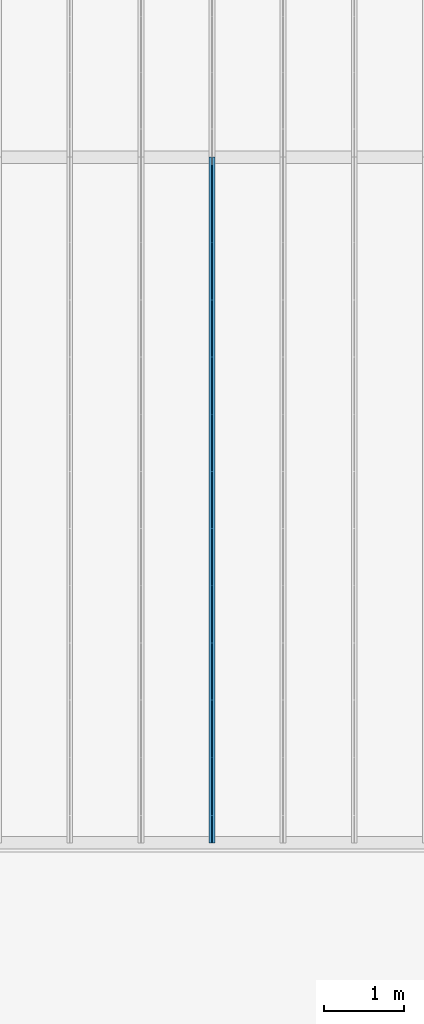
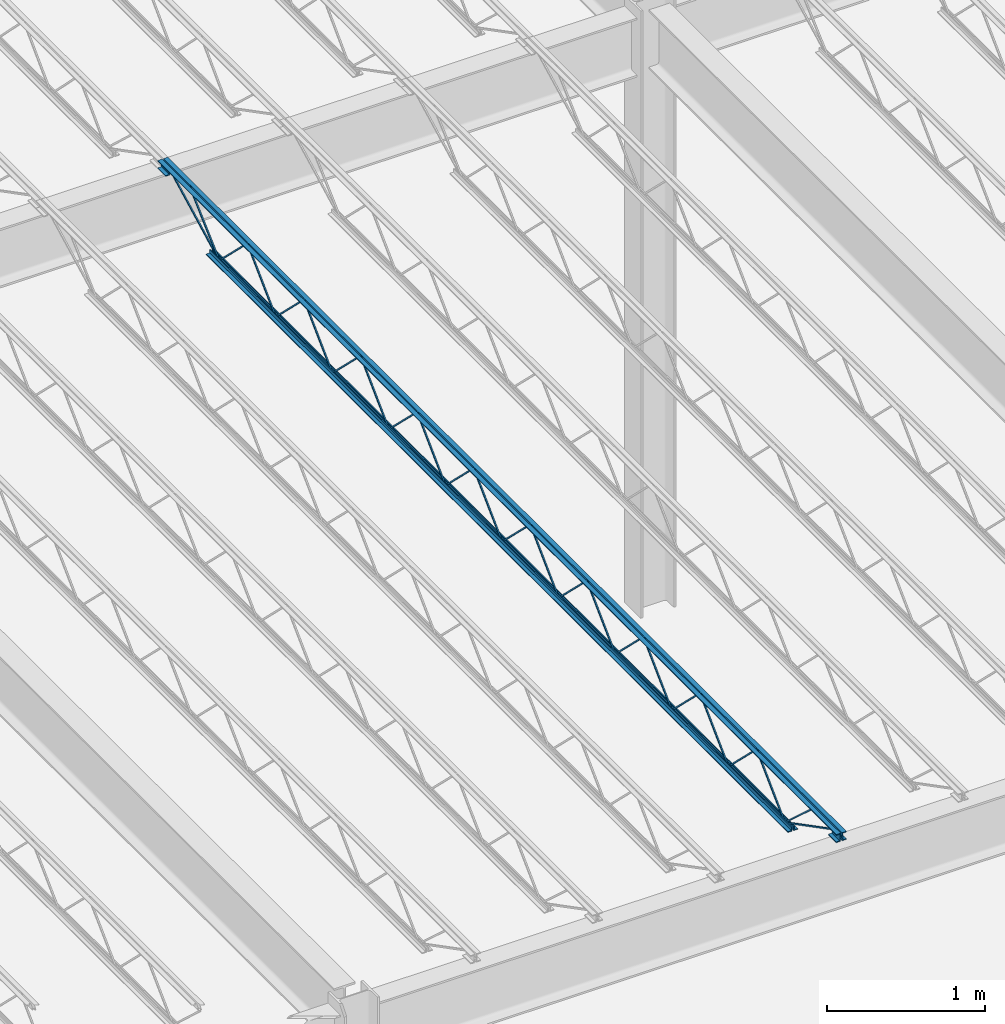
# One storey, part 29 of 119: 1 beam.
"""IFC2X3 building model written with IfcOpenShell, lengths in metres."""

from ifc_helpers import new_model, entity, si_unit, converted_unit, frame, origin, place, context, project, spatial, face_set, surface_model, element, save


model = new_model("IFC2X3")

# Units and contexts
model_context = context("Model", 3, precision=1e-09, world=origin())
plan_context = context("Plan", 3, precision=1e-09, world=origin())
ifc_project = project(units=[si_unit("LENGTHUNIT", "METRE"), si_unit("AREAUNIT", "SQUARE_METRE"), si_unit("VOLUMEUNIT", "CUBIC_METRE"), converted_unit("PLANEANGLEUNIT", "DEGREE", entity("IfcRatioMeasure", 0.01745329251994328), si_unit("PLANEANGLEUNIT", "RADIAN"), dimensions=[0, 0, 0, 0, 0, 0, 0]), si_unit("TIMEUNIT", "SECOND")], contexts=[model_context, plan_context])

# Site, building, storey
site_placement = place(None, origin())
site = spatial("IfcSite", under=ifc_project, at=site_placement, Name="Default", CompositionType="ELEMENT")
building_placement = place(site_placement, origin())
building = spatial("IfcBuilding", under=site, at=building_placement, CompositionType="ELEMENT")
storey_placement = place(building_placement, frame((0.0, 0.0, 4.570000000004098)))
storey = spatial("IfcBuildingStorey", under=building, at=storey_placement, Name="Second Floor", CompositionType="ELEMENT", Elevation=4.570000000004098)

# Beam
beam_placement = place(storey_placement, frame((-37.14175000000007, 10.04000000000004, 4.323999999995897)))
element("IfcBeam", 1, at=beam_placement, inside=storey, Name="M_K-Series Bar Joist-Rod Web:14K1:14K1", ObjectType="M_K-Series Bar Joist-Rod Web:14K1", context=model_context, shape_type="SurfaceModel", body=[
    surface_model("IfcFaceBasedSurfaceModel", [(0.04150000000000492, 6.428799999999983, 0.01110000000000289), (0.03200000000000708, 6.428799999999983, 0.01110000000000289), (0.03200000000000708, 6.428799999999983, 0.001600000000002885), (0.04150000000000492, 6.428799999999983, 0.001600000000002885), (0.03200000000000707, 6.430038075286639, 0.01110000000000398), (0.04150000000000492, 6.430038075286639, 0.01110000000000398), (0.03200000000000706, 6.433911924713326, 0.001600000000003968), (0.03200000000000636, 6.784861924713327, 0.3449000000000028), (0.03200000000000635, 6.787338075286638, 0.3449000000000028), (0.03200000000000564, 7.138288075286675, 0.001600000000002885), (0.03200000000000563, 7.143399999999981, 0.001600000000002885), (0.03200000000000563, 7.143399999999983, 0.01110000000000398), (0.03200000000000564, 7.142161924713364, 0.01110000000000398), (0.03200000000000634, 6.791211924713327, 0.3544000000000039), (0.03200000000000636, 6.780988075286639, 0.3544000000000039), (0.04150000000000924, 6.433911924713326, 0.001600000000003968), (0.04150000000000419, 6.784861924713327, 0.3449000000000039), (0.04150000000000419, 6.78733807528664, 0.3449000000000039), (0.04150000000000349, 7.138288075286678, 0.001600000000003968), (0.04150000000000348, 7.143399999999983, 0.001600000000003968), (0.04150000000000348, 7.143399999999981, 0.01110000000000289), (0.04150000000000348, 7.142161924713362, 0.01110000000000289), (0.04150000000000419, 6.791211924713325, 0.3544000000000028), (0.0415000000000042, 6.780988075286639, 0.3544000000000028), (0.04150000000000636, 5.714199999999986, 0.01110000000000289), (0.03200000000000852, 5.714199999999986, 0.01110000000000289), (0.03200000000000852, 5.714199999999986, 0.001600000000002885), (0.04150000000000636, 5.714199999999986, 0.001600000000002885), (0.03200000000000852, 5.715438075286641, 0.01110000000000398), (0.04150000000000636, 5.715438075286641, 0.01110000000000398), (0.03200000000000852, 5.719311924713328, 0.001600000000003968), (0.0320000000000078, 6.070261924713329, 0.3449000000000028), (0.0320000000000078, 6.072738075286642, 0.3449000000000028), (0.03200000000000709, 6.423688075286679, 0.001600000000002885), (0.03200000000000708, 6.428799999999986, 0.001600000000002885), (0.03200000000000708, 6.428799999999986, 0.01110000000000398), (0.03200000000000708, 6.427561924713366, 0.01110000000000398), (0.03200000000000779, 6.076611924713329, 0.3544000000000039), (0.03200000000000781, 6.066388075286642, 0.3544000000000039), (0.04150000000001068, 5.719311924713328, 0.001600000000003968), (0.04150000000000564, 6.070261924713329, 0.3449000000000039), (0.04150000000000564, 6.072738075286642, 0.3449000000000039), (0.04150000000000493, 6.423688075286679, 0.001600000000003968), (0.04150000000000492, 6.428799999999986, 0.001600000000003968), (0.04150000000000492, 6.428799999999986, 0.01110000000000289), (0.04150000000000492, 6.427561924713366, 0.01110000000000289), (0.04150000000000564, 6.076611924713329, 0.3544000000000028), (0.04150000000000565, 6.066388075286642, 0.3544000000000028), (0.04150000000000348, 4.999599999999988, 0.01110000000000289), (0.03200000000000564, 4.999599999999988, 0.01110000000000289), (0.03200000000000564, 4.999599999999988, 0.001600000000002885), (0.04150000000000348, 4.999599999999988, 0.001600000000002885), (0.03200000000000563, 5.000838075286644, 0.01110000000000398), (0.04150000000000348, 5.000838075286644, 0.01110000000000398), (0.03200000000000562, 5.00471192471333, 0.001600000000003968), (0.03200000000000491, 5.35566192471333, 0.3449000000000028), (0.03200000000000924, 5.358138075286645, 0.3449000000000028), (0.03200000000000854, 5.709088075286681, 0.001600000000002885), (0.03200000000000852, 5.714199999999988, 0.001600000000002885), (0.03200000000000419, 5.714199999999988, 0.01110000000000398), (0.03200000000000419, 5.712961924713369, 0.01110000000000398), (0.03200000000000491, 5.362011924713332, 0.3544000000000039), (0.03200000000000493, 5.351788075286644, 0.3544000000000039), (0.0415000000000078, 5.00471192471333, 0.001600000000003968), (0.04150000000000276, 5.35566192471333, 0.3449000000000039), (0.04150000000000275, 5.358138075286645, 0.3449000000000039), (0.04150000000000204, 5.709088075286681, 0.001600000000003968), (0.04150000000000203, 5.714199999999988, 0.001600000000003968), (0.04150000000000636, 5.714199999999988, 0.01110000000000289), (0.04150000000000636, 5.712961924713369, 0.01110000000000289), (0.04150000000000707, 5.362011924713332, 0.3544000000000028), (0.04150000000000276, 5.351788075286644, 0.3544000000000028), (0.04150000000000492, 4.28499999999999, 0.01110000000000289), (0.03200000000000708, 4.28499999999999, 0.01110000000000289), (0.03200000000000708, 4.28499999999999, 0.001600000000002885), (0.04150000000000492, 4.28499999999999, 0.001600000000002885), (0.03200000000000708, 4.286238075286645, 0.01110000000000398), (0.04150000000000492, 4.286238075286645, 0.01110000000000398), (0.03200000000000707, 4.290111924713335, 0.001600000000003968), (0.03200000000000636, 4.641061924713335, 0.3449000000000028), (0.03200000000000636, 4.643538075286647, 0.3449000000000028), (0.03200000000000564, 4.994488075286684, 0.001600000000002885), (0.03200000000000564, 4.999599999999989, 0.001600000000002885), (0.03200000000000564, 4.999599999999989, 0.01110000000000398), (0.03200000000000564, 4.998361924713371, 0.01110000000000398), (0.03200000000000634, 4.647411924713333, 0.3544000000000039), (0.03200000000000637, 4.637188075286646, 0.3544000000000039), (0.04150000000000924, 4.290111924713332, 0.001600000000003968), (0.0415000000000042, 4.641061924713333, 0.3449000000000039), (0.04150000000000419, 4.643538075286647, 0.3449000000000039), (0.04150000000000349, 4.994488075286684, 0.001600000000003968), (0.04150000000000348, 4.999599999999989, 0.001600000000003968), (0.04150000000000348, 4.999599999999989, 0.01110000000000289), (0.04150000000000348, 4.998361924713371, 0.01110000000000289), (0.04150000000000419, 4.647411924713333, 0.3544000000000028), (0.04150000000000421, 4.637188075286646, 0.3544000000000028), (0.04150000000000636, 3.570399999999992, 0.01110000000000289), (0.03200000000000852, 3.570399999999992, 0.01110000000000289), (0.03200000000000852, 3.570399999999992, 0.001600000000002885), (0.04150000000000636, 3.570399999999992, 0.001600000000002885), (0.03200000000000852, 3.571638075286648, 0.01110000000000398), (0.04150000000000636, 3.571638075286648, 0.01110000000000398), (0.03200000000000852, 3.575511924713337, 0.001600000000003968), (0.03200000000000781, 3.926461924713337, 0.3449000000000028), (0.0320000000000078, 3.928938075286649, 0.3449000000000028), (0.03200000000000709, 4.279888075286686, 0.001600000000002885), (0.03200000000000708, 4.284999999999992, 0.001600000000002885), (0.03200000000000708, 4.284999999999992, 0.01110000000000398), (0.03200000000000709, 4.283761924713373, 0.01110000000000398), (0.03200000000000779, 3.932811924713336, 0.3544000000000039), (0.03200000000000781, 3.922588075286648, 0.3544000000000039), (0.04150000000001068, 3.575511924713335, 0.001600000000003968), (0.04150000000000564, 3.926461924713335, 0.3449000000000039), (0.04150000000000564, 3.928938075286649, 0.3449000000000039), (0.04150000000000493, 4.279888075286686, 0.001600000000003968), (0.04150000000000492, 4.284999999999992, 0.001600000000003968), (0.04150000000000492, 4.284999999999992, 0.01110000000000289), (0.04150000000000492, 4.283761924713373, 0.01110000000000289), (0.04150000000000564, 3.932811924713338, 0.3544000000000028), (0.04150000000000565, 3.92258807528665, 0.3544000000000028), (0.04150000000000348, 2.855799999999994, 0.01110000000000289), (0.03200000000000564, 2.855799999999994, 0.01110000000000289), (0.03200000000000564, 2.855799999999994, 0.001600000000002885), (0.04150000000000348, 2.855799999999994, 0.001600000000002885), (0.03200000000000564, 2.85703807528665, 0.01110000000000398), (0.04150000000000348, 2.85703807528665, 0.01110000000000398), (0.03200000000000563, 2.860911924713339, 0.001600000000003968), (0.03200000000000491, 3.21186192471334, 0.3449000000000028), (0.03200000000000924, 3.214338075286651, 0.3449000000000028), (0.03200000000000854, 3.565288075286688, 0.001600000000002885), (0.03200000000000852, 3.570399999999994, 0.001600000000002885), (0.03200000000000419, 3.570399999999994, 0.01110000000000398), (0.0320000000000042, 3.569161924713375, 0.01110000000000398), (0.03200000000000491, 3.218211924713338, 0.3544000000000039), (0.03200000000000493, 3.20798807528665, 0.3544000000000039), (0.0415000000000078, 2.860911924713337, 0.001600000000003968), (0.04150000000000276, 3.211861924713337, 0.3449000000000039), (0.04150000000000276, 3.214338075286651, 0.3449000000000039), (0.04150000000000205, 3.565288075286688, 0.001600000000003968), (0.04150000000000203, 3.570399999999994, 0.001600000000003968), (0.04150000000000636, 3.570399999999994, 0.01110000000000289), (0.04150000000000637, 3.569161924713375, 0.01110000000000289), (0.04150000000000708, 3.21821192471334, 0.3544000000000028), (0.04150000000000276, 3.207988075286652, 0.3544000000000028), (0.04150000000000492, 2.141199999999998, 0.01110000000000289), (0.03200000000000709, 2.141199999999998, 0.01110000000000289), (0.03200000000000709, 2.141199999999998, 0.001600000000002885), (0.04150000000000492, 2.141199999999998, 0.001600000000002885), (0.03200000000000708, 2.142438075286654, 0.01110000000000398), (0.04150000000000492, 2.142438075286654, 0.01110000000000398), (0.03200000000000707, 2.146311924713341, 0.001600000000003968), (0.03200000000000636, 2.497261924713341, 0.3449000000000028), (0.03200000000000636, 2.499738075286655, 0.3449000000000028), (0.03200000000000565, 2.850688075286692, 0.001600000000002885), (0.03200000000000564, 2.855799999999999, 0.001600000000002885), (0.03200000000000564, 2.855799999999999, 0.01110000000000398), (0.03200000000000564, 2.85456192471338, 0.01110000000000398), (0.03200000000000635, 2.503611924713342, 0.3544000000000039), (0.03200000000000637, 2.493388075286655, 0.3544000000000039), (0.04150000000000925, 2.146311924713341, 0.001600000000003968), (0.0415000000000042, 2.497261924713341, 0.3449000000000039), (0.04150000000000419, 2.499738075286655, 0.3449000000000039), (0.04150000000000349, 2.850688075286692, 0.001600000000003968), (0.04150000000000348, 2.855799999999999, 0.001600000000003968), (0.04150000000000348, 2.855799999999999, 0.01110000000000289), (0.04150000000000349, 2.85456192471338, 0.01110000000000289), (0.04150000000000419, 2.503611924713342, 0.3544000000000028), (0.04150000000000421, 2.493388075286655, 0.3544000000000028), (0.04150000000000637, 1.426600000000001, 0.01110000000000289), (0.03200000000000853, 1.426600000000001, 0.01110000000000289), (0.03200000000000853, 1.426600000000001, 0.001600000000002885), (0.04150000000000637, 1.426600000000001, 0.001600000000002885), (0.03200000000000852, 1.427838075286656, 0.01110000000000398), (0.04150000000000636, 1.427838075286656, 0.01110000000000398), (0.03200000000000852, 1.431711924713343, 0.001600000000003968), (0.03200000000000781, 1.782661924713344, 0.3449000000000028), (0.0320000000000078, 1.785138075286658, 0.3449000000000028), (0.03200000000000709, 2.136088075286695, 0.001600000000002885), (0.03200000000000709, 2.1412, 0.001600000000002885), (0.03200000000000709, 2.1412, 0.01110000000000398), (0.03200000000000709, 2.139961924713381, 0.01110000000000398), (0.03200000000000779, 1.789011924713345, 0.3544000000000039), (0.03200000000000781, 1.778788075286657, 0.3544000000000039), (0.0415000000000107, 1.431711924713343, 0.001600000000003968), (0.04150000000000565, 1.782661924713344, 0.3449000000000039), (0.04150000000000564, 1.785138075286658, 0.3449000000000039), (0.04150000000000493, 2.136088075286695, 0.001600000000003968), (0.04150000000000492, 2.1412, 0.001600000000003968), (0.04150000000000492, 2.1412, 0.01110000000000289), (0.04150000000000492, 2.139961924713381, 0.01110000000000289), (0.04150000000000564, 1.789011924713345, 0.3544000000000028), (0.04150000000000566, 1.778788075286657, 0.3544000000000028), (0.04150000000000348, 7.143399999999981, 0.01109999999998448), (0.03200000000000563, 7.143399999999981, 0.01109999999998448), (0.03200000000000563, 7.143399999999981, 0.001599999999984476), (0.04150000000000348, 7.143399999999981, 0.001599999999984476), (0.03200000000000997, 7.144638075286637, 0.01109999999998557), (0.0415000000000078, 7.144638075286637, 0.01109999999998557), (0.03200000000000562, 7.148511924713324, 0.001599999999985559), (0.03200000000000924, 7.499461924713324, 0.3448999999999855), (0.03200000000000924, 7.501938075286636, 0.3448999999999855), (0.03200000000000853, 7.852888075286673, 0.001599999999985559), (0.03200000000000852, 7.857999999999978, 0.001599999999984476), (0.03200000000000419, 7.857999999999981, 0.01109999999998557), (0.03200000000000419, 7.856761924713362, 0.01109999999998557), (0.0320000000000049, 7.505811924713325, 0.3543999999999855), (0.03200000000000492, 7.495588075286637, 0.3543999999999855), (0.04150000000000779, 7.148511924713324, 0.001599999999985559), (0.04150000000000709, 7.499461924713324, 0.3448999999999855), (0.04150000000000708, 7.501938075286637, 0.3448999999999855), (0.04150000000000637, 7.852888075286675, 0.001599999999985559), (0.04150000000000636, 7.857999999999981, 0.001599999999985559), (0.04150000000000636, 7.857999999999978, 0.01109999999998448), (0.0415000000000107, 7.85676192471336, 0.01109999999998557), (0.0415000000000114, 7.505811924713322, 0.3543999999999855), (0.04150000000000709, 7.495588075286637, 0.3543999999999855), (0.04150000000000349, 0.7120000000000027, 0.01110000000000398), (0.03200000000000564, 0.7120000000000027, 0.01110000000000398), (0.03200000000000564, 0.7120000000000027, 0.001600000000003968), (0.04150000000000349, 0.7120000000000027, 0.001600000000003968), (0.03200000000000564, 0.7132380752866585, 0.01110000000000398), (0.04150000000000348, 0.7132380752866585, 0.01110000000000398), (0.03200000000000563, 0.7171119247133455, 0.001600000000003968), (0.03200000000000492, 1.068061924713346, 0.3449000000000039), (0.03200000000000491, 1.07053807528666, 0.3449000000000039), (0.03200000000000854, 1.421488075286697, 0.001600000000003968), (0.03200000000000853, 1.426600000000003, 0.001600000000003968), (0.0320000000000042, 1.426600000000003, 0.01110000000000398), (0.0320000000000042, 1.425361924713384, 0.01110000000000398), (0.03200000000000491, 1.074411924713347, 0.3544000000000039), (0.03200000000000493, 1.064188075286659, 0.3544000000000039), (0.0415000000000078, 0.7171119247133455, 0.001600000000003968), (0.04150000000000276, 1.068061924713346, 0.3449000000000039), (0.04150000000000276, 1.07053807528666, 0.3449000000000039), (0.04150000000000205, 1.421488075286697, 0.001600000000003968), (0.04150000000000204, 1.426600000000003, 0.001600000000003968), (0.04150000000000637, 1.426600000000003, 0.01110000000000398), (0.04150000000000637, 1.425361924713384, 0.01110000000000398), (0.04150000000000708, 1.074411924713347, 0.3544000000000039), (0.04150000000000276, 1.064188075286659, 0.3544000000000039), (0.03200000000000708, 8.569999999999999, 0.3559999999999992), (0.0, 8.569999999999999, 0.3559999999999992), (0.0, 8.569999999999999, 0.3494999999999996), (0.02550000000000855, 8.569999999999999, 0.3494999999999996), (0.02550000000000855, 8.569999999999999, 0.3239999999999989), (0.03200000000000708, 8.569999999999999, 0.3239999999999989), (0.04150000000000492, 8.569999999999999, 0.3559999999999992), (0.04150000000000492, 8.569999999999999, 0.3239999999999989), (0.04800000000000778, 8.569999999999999, 0.3239999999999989), (0.04800000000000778, 8.569999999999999, 0.3494999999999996), (0.07350000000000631, 8.569999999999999, 0.3494999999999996), (0.07350000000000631, 8.569999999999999, 0.3559999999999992), (0.03200000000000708, 0.0, 0.3559999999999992), (0.0, 0.0, 0.3559999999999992), (0.0, 0.0, 0.3494999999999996), (0.02550000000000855, 0.0, 0.3494999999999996), (0.02550000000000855, 0.0, 0.3239999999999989), (0.03200000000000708, 0.0, 0.3239999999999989), (0.04150000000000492, 0.0, 0.3559999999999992), (0.04150000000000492, 0.0, 0.3239999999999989), (0.04800000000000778, 0.0, 0.3239999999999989), (0.04800000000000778, 0.0, 0.3494999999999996), (0.07350000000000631, 0.0, 0.3494999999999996), (0.07350000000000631, 0.0, 0.3559999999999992), (0.04150000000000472, 0.09999999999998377, 0.2924999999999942), (0.0735000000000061, 0.09999999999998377, 0.2924999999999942), (0.0735000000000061, 0.09999999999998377, 0.2989999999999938), (0.04800000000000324, 0.09999999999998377, 0.2989999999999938), (0.04800000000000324, 0.09999999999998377, 0.3239999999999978), (0.04150000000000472, 0.09999999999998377, 0.3239999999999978), (0.0, 0.09999999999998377, 0.2924999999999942), (0.03200000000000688, 0.09999999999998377, 0.2924999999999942), (0.03200000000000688, 0.09999999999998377, 0.3239999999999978), (0.02550000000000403, 0.09999999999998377, 0.3239999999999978), (0.02550000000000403, 0.09999999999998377, 0.2989999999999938), (0.0, 0.09999999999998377, 0.2989999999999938), (0.04150000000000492, 0.0, 0.2924999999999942), (0.07350000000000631, 0.0, 0.2924999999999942), (0.07350000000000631, 0.0, 0.2989999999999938), (0.04800000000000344, 0.0, 0.2989999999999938), (0.04800000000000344, 0.0, 0.3239999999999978), (0.04150000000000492, 0.0, 0.3239999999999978), (0.0, 0.0, 0.2924999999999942), (0.03200000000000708, 0.0, 0.2924999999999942), (0.03200000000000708, 0.0, 0.3239999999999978), (0.02550000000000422, 0.0, 0.3239999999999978), (0.02550000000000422, 0.0, 0.2989999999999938), (0.0, 0.0, 0.2989999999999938), (0.03200000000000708, 8.569999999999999, 0.2924999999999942), (0.03200000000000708, 8.569999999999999, 0.3239999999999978), (0.02550000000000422, 8.569999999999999, 0.3239999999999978), (0.02550000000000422, 8.569999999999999, 0.2989999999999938), (0.0, 8.569999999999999, 0.2989999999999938), (0.0, 8.569999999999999, 0.2924999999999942), (0.04150000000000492, 8.569999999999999, 0.2924999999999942), (0.07350000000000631, 8.569999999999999, 0.2924999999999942), (0.07350000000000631, 8.569999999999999, 0.2989999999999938), (0.04800000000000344, 8.569999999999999, 0.2989999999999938), (0.04800000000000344, 8.569999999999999, 0.3239999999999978), (0.04150000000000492, 8.569999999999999, 0.3239999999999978), (0.03200000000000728, 8.469999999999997, 0.2924999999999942), (0.03200000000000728, 8.469999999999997, 0.3239999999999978), (0.02550000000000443, 8.469999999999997, 0.3239999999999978), (0.02550000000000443, 8.469999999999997, 0.2989999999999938), (0.0, 8.469999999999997, 0.2989999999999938), (0.0, 8.469999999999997, 0.2924999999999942), (0.04150000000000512, 8.469999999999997, 0.2924999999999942), (0.07350000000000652, 8.469999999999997, 0.2924999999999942), (0.07350000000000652, 8.469999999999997, 0.2989999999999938), (0.04800000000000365, 8.469999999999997, 0.2989999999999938), (0.04800000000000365, 8.469999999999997, 0.3239999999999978), (0.04150000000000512, 8.469999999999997, 0.3239999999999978), (0.03200000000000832, 7.958000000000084, 0.0), (0.03200000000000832, 7.958000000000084, 0.03199999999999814), (0.0255000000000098, 7.958000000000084, 0.03199999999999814), (0.0255000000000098, 7.958000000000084, 0.006499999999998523), (0.0, 7.958000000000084, 0.006499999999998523), (0.0, 7.958000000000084, 0.0), (0.04150000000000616, 7.958000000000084, 0.0), (0.07350000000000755, 7.958000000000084, 0.0), (0.07350000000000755, 7.958000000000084, 0.006499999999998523), (0.04800000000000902, 7.958000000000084, 0.006499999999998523), (0.04800000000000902, 7.958000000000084, 0.03199999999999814), (0.04150000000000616, 7.958000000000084, 0.03199999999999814), (0.03200000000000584, 0.6120000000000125, 0.0), (0.03200000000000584, 0.6120000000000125, 0.03199999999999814), (0.02550000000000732, 0.6120000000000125, 0.03199999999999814), (0.02550000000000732, 0.6120000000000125, 0.006499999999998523), (0.0, 0.6120000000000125, 0.006499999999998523), (0.0, 0.6120000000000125, 0.0), (0.04150000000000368, 0.6120000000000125, 0.0), (0.07350000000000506, 0.6120000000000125, 0.0), (0.07350000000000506, 0.6120000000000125, 0.006499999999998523), (0.04800000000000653, 0.6120000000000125, 0.006499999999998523), (0.04800000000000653, 0.6120000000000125, 0.03199999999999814), (0.04150000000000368, 0.6120000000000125, 0.03199999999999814), (0.04150000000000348, 0.7141882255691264, 0.01056594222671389), (0.03200000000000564, 0.7141882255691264, 0.01056594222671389), (0.03200000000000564, 0.7098117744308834, 0.002134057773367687), (0.04150000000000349, 0.7098117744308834, 0.00213405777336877), (0.04150000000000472, 0.101159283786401, 0.3287499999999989), (0.04150000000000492, 0.0, 0.3287499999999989), (0.04150000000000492, 0.0, 0.3192499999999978), (0.04150000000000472, 0.09884071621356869, 0.3192499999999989), (0.03200000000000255, 0.09884071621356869, 0.3192499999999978), (0.03200000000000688, 0.101159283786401, 0.3287499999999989), (0.03200000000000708, 0.0, 0.3287499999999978), (0.03200000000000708, 0.0, 0.3192499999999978), (0.04150000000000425, 0.3347428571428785, 0.3417000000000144), (0.0320000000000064, 0.3347428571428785, 0.3417000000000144), (0.0320000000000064, 0.3347428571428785, 0.3322000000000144), (0.04150000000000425, 0.3347428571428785, 0.3322000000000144), (0.03200000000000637, 0.3492758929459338, 0.3417000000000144), (0.04150000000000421, 0.3492758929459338, 0.3417000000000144), (0.03200000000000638, 0.3456098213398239, 0.3322000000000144), (0.03200000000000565, 0.7088091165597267, 0.002831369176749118), (0.03200000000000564, 0.7151908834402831, 0.009868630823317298), (0.04150000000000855, 0.3456098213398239, 0.3322000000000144), (0.04150000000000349, 0.7088091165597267, 0.002831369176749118), (0.04150000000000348, 0.7151908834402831, 0.009868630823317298), (0.04150000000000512, 8.472188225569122, 0.3197840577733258), (0.04150000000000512, 8.467811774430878, 0.328215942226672), (0.03200000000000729, 8.467811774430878, 0.328215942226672), (0.03200000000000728, 8.472188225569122, 0.3197840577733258), (0.04150000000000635, 7.860188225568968, 0.002134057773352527), (0.04150000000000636, 7.855811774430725, 0.01056594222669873), (0.03200000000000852, 7.855811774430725, 0.01056594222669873), (0.03200000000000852, 7.860188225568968, 0.002134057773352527), (0.0415000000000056, 8.233036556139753, 0.3461600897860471), (0.04150000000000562, 8.226592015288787, 0.3531399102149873), (0.03200000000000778, 8.226592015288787, 0.3531399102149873), (0.03200000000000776, 8.233036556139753, 0.3461600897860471), (0.04150000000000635, 7.86122227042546, 0.00286008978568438), (0.04150000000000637, 7.854777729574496, 0.009839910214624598), (0.03200000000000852, 7.854777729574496, 0.009839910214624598), (0.03200000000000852, 7.86122227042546, 0.00286008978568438)], [face_set([[[0, 1, 2, 3]], [[1, 4, 5, 0]], [[2, 6, 7, 8, 9, 10, 11, 12, 13, 14, 4, 1]], [[3, 2, 6, 15]], [[0, 3, 15, 16, 17, 18, 19, 20, 21, 22, 23, 5]], [[4, 5, 23, 14]], [[15, 16, 7, 6]], [[14, 13, 22, 23]], [[16, 7, 8, 17]], [[13, 12, 21, 22]], [[17, 8, 9, 18]], [[20, 11, 10, 19]], [[12, 11, 20, 21]], [[18, 9, 10, 19]]]), face_set([[[24, 25, 26, 27]], [[25, 28, 29, 24]], [[26, 30, 31, 32, 33, 34, 35, 36, 37, 38, 28, 25]], [[27, 26, 30, 39]], [[24, 27, 39, 40, 41, 42, 43, 44, 45, 46, 47, 29]], [[28, 29, 47, 38]], [[39, 40, 31, 30]], [[38, 37, 46, 47]], [[40, 31, 32, 41]], [[37, 36, 45, 46]], [[41, 32, 33, 42]], [[44, 35, 34, 43]], [[36, 35, 44, 45]], [[42, 33, 34, 43]]]), face_set([[[48, 49, 50, 51]], [[49, 52, 53, 48]], [[50, 54, 55, 56, 57, 58, 59, 60, 61, 62, 52, 49]], [[51, 50, 54, 63]], [[48, 51, 63, 64, 65, 66, 67, 68, 69, 70, 71, 53]], [[52, 53, 71, 62]], [[63, 64, 55, 54]], [[62, 61, 70, 71]], [[64, 55, 56, 65]], [[61, 60, 69, 70]], [[65, 56, 57, 66]], [[68, 59, 58, 67]], [[60, 59, 68, 69]], [[66, 57, 58, 67]]]), face_set([[[72, 73, 74, 75]], [[73, 76, 77, 72]], [[74, 78, 79, 80, 81, 82, 83, 84, 85, 86, 76, 73]], [[75, 74, 78, 87]], [[72, 75, 87, 88, 89, 90, 91, 92, 93, 94, 95, 77]], [[76, 77, 95, 86]], [[87, 88, 79, 78]], [[86, 85, 94, 95]], [[88, 79, 80, 89]], [[85, 84, 93, 94]], [[89, 80, 81, 90]], [[92, 83, 82, 91]], [[84, 83, 92, 93]], [[90, 81, 82, 91]]]), face_set([[[96, 97, 98, 99]], [[97, 100, 101, 96]], [[98, 102, 103, 104, 105, 106, 107, 108, 109, 110, 100, 97]], [[99, 98, 102, 111]], [[96, 99, 111, 112, 113, 114, 115, 116, 117, 118, 119, 101]], [[100, 101, 119, 110]], [[111, 112, 103, 102]], [[110, 109, 118, 119]], [[112, 103, 104, 113]], [[109, 108, 117, 118]], [[113, 104, 105, 114]], [[116, 107, 106, 115]], [[108, 107, 116, 117]], [[114, 105, 106, 115]]]), face_set([[[120, 121, 122, 123]], [[121, 124, 125, 120]], [[122, 126, 127, 128, 129, 130, 131, 132, 133, 134, 124, 121]], [[123, 122, 126, 135]], [[120, 123, 135, 136, 137, 138, 139, 140, 141, 142, 143, 125]], [[124, 125, 143, 134]], [[135, 136, 127, 126]], [[134, 133, 142, 143]], [[136, 127, 128, 137]], [[133, 132, 141, 142]], [[137, 128, 129, 138]], [[140, 131, 130, 139]], [[132, 131, 140, 141]], [[138, 129, 130, 139]]]), face_set([[[144, 145, 146, 147]], [[145, 148, 149, 144]], [[146, 150, 151, 152, 153, 154, 155, 156, 157, 158, 148, 145]], [[147, 146, 150, 159]], [[144, 147, 159, 160, 161, 162, 163, 164, 165, 166, 167, 149]], [[148, 149, 167, 158]], [[159, 160, 151, 150]], [[158, 157, 166, 167]], [[160, 151, 152, 161]], [[157, 156, 165, 166]], [[161, 152, 153, 162]], [[164, 155, 154, 163]], [[156, 155, 164, 165]], [[162, 153, 154, 163]]]), face_set([[[168, 169, 170, 171]], [[169, 172, 173, 168]], [[170, 174, 175, 176, 177, 178, 179, 180, 181, 182, 172, 169]], [[171, 170, 174, 183]], [[168, 171, 183, 184, 185, 186, 187, 188, 189, 190, 191, 173]], [[172, 173, 191, 182]], [[183, 184, 175, 174]], [[182, 181, 190, 191]], [[184, 175, 176, 185]], [[181, 180, 189, 190]], [[185, 176, 177, 186]], [[188, 179, 178, 187]], [[180, 179, 188, 189]], [[186, 177, 178, 187]]]), face_set([[[192, 193, 194, 195]], [[193, 196, 197, 192]], [[194, 198, 199, 200, 201, 202, 203, 204, 205, 206, 196, 193]], [[195, 194, 198, 207]], [[192, 195, 207, 208, 209, 210, 211, 212, 213, 214, 215, 197]], [[196, 197, 215, 206]], [[207, 208, 199, 198]], [[206, 205, 214, 215]], [[208, 199, 200, 209]], [[205, 204, 213, 214]], [[209, 200, 201, 210]], [[212, 203, 202, 211]], [[204, 203, 212, 213]], [[210, 201, 202, 211]]]), face_set([[[216, 217, 218, 219]], [[217, 220, 221, 216]], [[218, 222, 223, 224, 225, 226, 227, 228, 229, 230, 220, 217]], [[219, 218, 222, 231]], [[216, 219, 231, 232, 233, 234, 235, 236, 237, 238, 239, 221]], [[220, 221, 239, 230]], [[231, 232, 223, 222]], [[230, 229, 238, 239]], [[232, 223, 224, 233]], [[229, 228, 237, 238]], [[233, 224, 225, 234]], [[236, 227, 226, 235]], [[228, 227, 236, 237]], [[234, 225, 226, 235]]]), face_set([[[240, 241, 242, 243, 244, 245]], [[246, 247, 248, 249, 250, 251]], [[252, 253, 254, 255, 256, 257]], [[258, 259, 260, 261, 262, 263]], [[245, 240, 252, 257]], [[244, 245, 257, 256]], [[243, 255, 256, 244]], [[242, 243, 255, 254]], [[241, 253, 254, 242]], [[240, 252, 253, 241]], [[251, 263, 258, 246]], [[250, 251, 263, 262]], [[249, 250, 262, 261]], [[248, 249, 261, 260]], [[247, 248, 260, 259]], [[246, 258, 259, 247]]]), face_set([[[264, 265, 266, 267, 268, 269]], [[270, 271, 272, 273, 274, 275]], [[276, 277, 278, 279, 280, 281]], [[282, 283, 284, 285, 286, 287]], [[269, 281, 276, 264]], [[268, 280, 281, 269]], [[267, 268, 280, 279]], [[266, 278, 279, 267]], [[265, 266, 278, 277]], [[264, 265, 277, 276]], [[275, 287, 282, 270]], [[274, 286, 287, 275]], [[273, 285, 286, 274]], [[272, 284, 285, 273]], [[271, 272, 284, 283]], [[270, 271, 283, 282]]]), face_set([[[288, 289, 290, 291, 292, 293]], [[294, 295, 296, 297, 298, 299]], [[300, 301, 302, 303, 304, 305]], [[306, 307, 308, 309, 310, 311]], [[293, 288, 300, 305]], [[292, 304, 305, 293]], [[291, 303, 304, 292]], [[290, 302, 303, 291]], [[289, 301, 302, 290]], [[288, 289, 301, 300]], [[299, 311, 306, 294]], [[298, 310, 311, 299]], [[297, 298, 310, 309]], [[296, 308, 309, 297]], [[295, 296, 308, 307]], [[294, 295, 307, 306]]]), face_set([[[312, 313, 314, 315, 316, 317]], [[318, 319, 320, 321, 322, 323]], [[324, 325, 326, 327, 328, 329]], [[330, 331, 332, 333, 334, 335]], [[317, 312, 324, 329]], [[316, 328, 329, 317]], [[315, 327, 328, 316]], [[314, 326, 327, 315]], [[313, 325, 326, 314]], [[312, 313, 325, 324]], [[323, 335, 330, 318]], [[322, 334, 335, 323]], [[321, 322, 334, 333]], [[320, 332, 333, 321]], [[319, 320, 332, 331]], [[318, 319, 331, 330]]]), face_set([[[336, 337, 338, 339]], [[339, 336, 340, 341, 342, 343]], [[338, 339, 343, 344]], [[337, 345, 346, 347, 344, 338]], [[336, 340, 345, 337]], [[341, 346, 347, 342]], [[344, 343, 342, 347]], [[340, 341, 346, 345]]]), face_set([[[348, 349, 350, 351]], [[349, 352, 353, 348]], [[350, 354, 355, 356, 352, 349]], [[351, 350, 354, 357]], [[348, 351, 357, 358, 359, 353]], [[359, 356, 355, 358]], [[352, 356, 359, 353]], [[357, 354, 355, 358]]]), face_set([[[360, 361, 362, 363]], [[364, 365, 366, 367]], [[363, 360, 364, 367]], [[362, 366, 367, 363]], [[361, 365, 366, 362]], [[360, 361, 365, 364]]]), face_set([[[368, 369, 370, 371]], [[372, 373, 374, 375]], [[371, 375, 372, 368]], [[370, 374, 375, 371]], [[369, 370, 374, 373]], [[368, 369, 373, 372]]])]),
])

save(model, "model.ifc")
